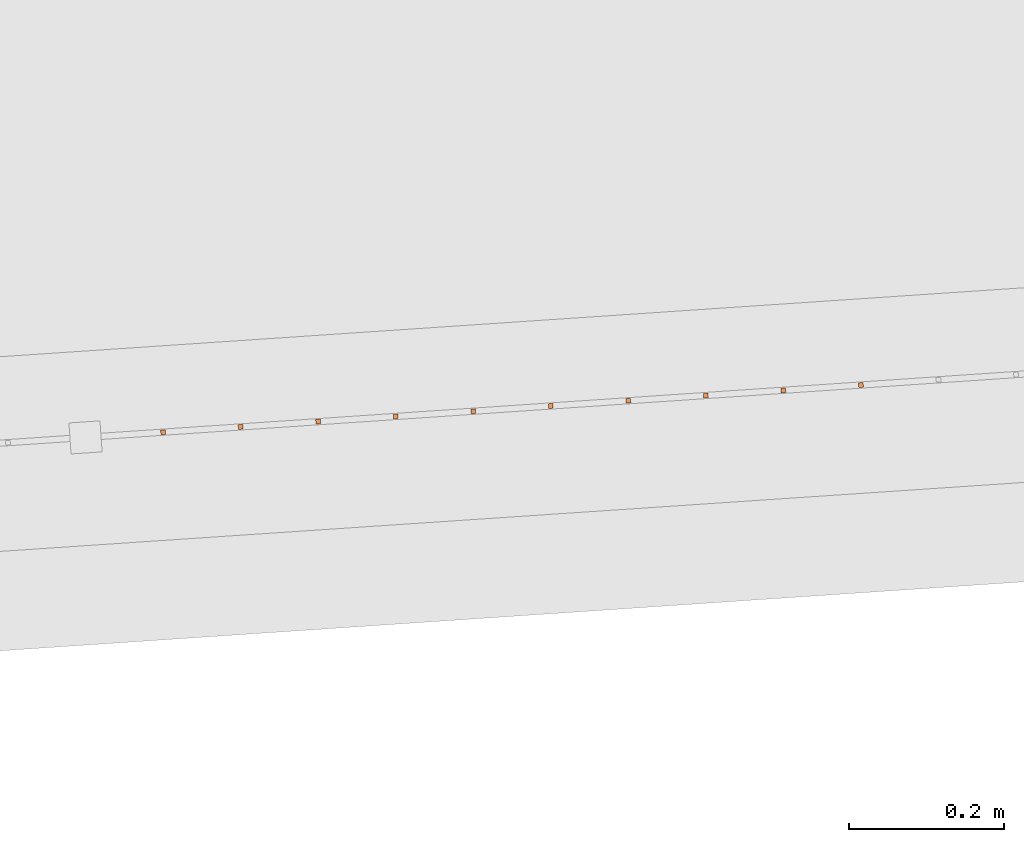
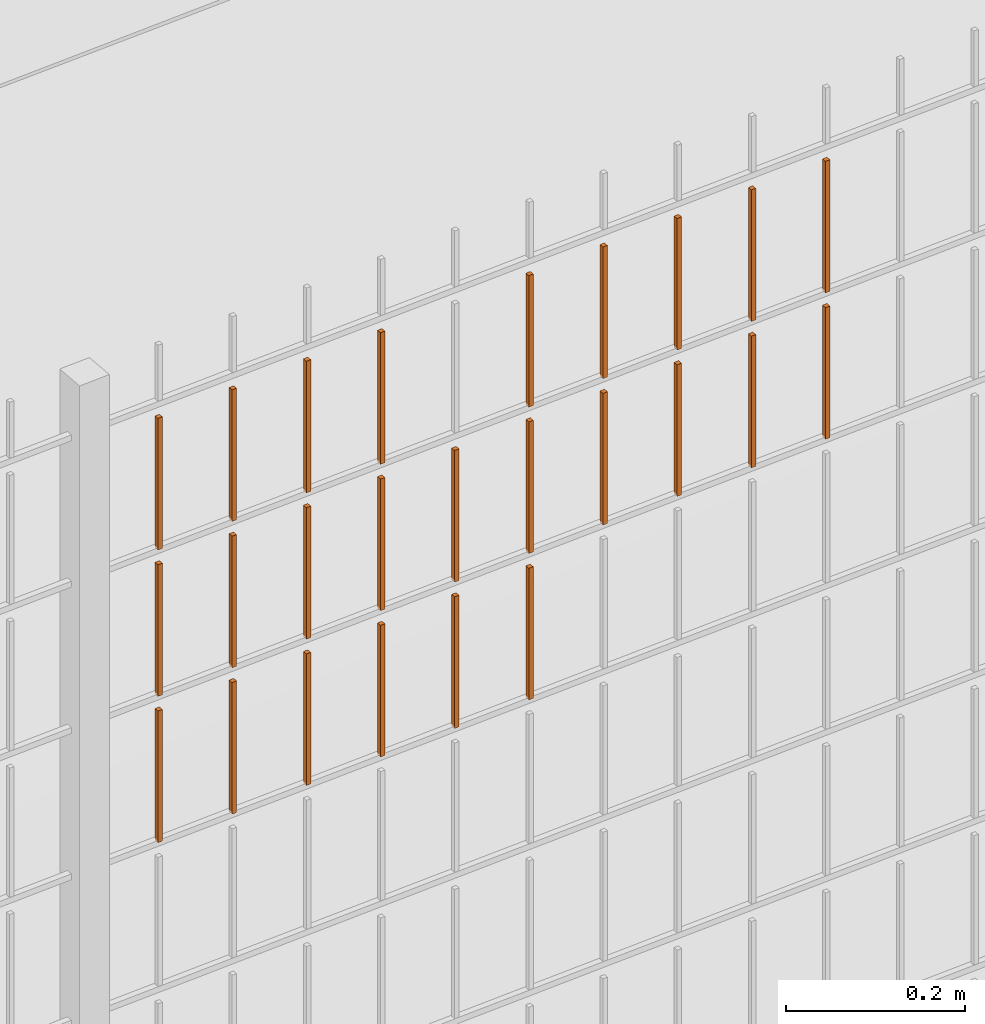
# One storey, part 198 of 1809: 25 proxies, 1 element without a shape of its own.
"""IFC2X3 building model written with IfcOpenShell, lengths in millimetres."""

from ifc_helpers import new_model, entity, si_unit, converted_unit, derived_unit, money_unit, direction, frame, origin_with_axes, place, context, subcontext, project, spatial, faceted_brep, source, transform, mapped, material, type_object, element, aggregate, save


model = new_model("IFC2X3")

# Units and contexts
model_context = context("Model", 3, precision=0.01, world=origin_with_axes(), true_north=direction((0.0, 1.0)))
body_context = subcontext(model_context, "Body", "Model", "MODEL_VIEW")
ifc_project = project(units=[si_unit("LENGTHUNIT", "METRE", prefix="MILLI"), si_unit("AREAUNIT", "SQUARE_METRE"), si_unit("VOLUMEUNIT", "CUBIC_METRE"), converted_unit("PLANEANGLEUNIT", "DEGREE", entity("IfcPlaneAngleMeasure", 0.0174532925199), si_unit("PLANEANGLEUNIT", "RADIAN"), dimensions=[0, 0, 0, 0, 0, 0, 0]), si_unit("SOLIDANGLEUNIT", "STERADIAN"), money_unit("EUR"), converted_unit("TIMEUNIT", "Year", entity("IfcTimeMeasure", 31556926.0), si_unit("TIMEUNIT", "SECOND"), dimensions=[0, 0, 1, 0, 0, 0, 0]), si_unit("MASSUNIT", "GRAM", prefix="KILO"), si_unit("THERMODYNAMICTEMPERATUREUNIT", "DEGREE_CELSIUS"), si_unit("LUMINOUSINTENSITYUNIT", "LUMEN"), si_unit("ENERGYUNIT", "JOULE", prefix="MEGA"), derived_unit("THERMALCONDUCTANCEUNIT", [(si_unit("POWERUNIT", "WATT"), 1), (si_unit("LENGTHUNIT", "METRE"), -1), (si_unit("THERMODYNAMICTEMPERATUREUNIT", "KELVIN"), -1)]), derived_unit("SPECIFICHEATCAPACITYUNIT", [(si_unit("ENERGYUNIT", "JOULE"), 1), (si_unit("MASSUNIT", "GRAM", prefix="KILO"), -1), (si_unit("THERMODYNAMICTEMPERATUREUNIT", "KELVIN"), -1)]), derived_unit("MASSDENSITYUNIT", [(si_unit("MASSUNIT", "GRAM", prefix="KILO"), 1), (si_unit("VOLUMEUNIT", "CUBIC_METRE"), -1)])], contexts=[model_context])

# Site, building, storey
site_placement = place(None, origin_with_axes())
site = spatial("IfcSite", under=ifc_project, at=site_placement, Name="Politse- ja Piirivalveameti ning Päästeameti ühishoone", CompositionType="ELEMENT")
building_placement = place(site_placement, origin_with_axes())
building = spatial("IfcBuilding", under=site, at=building_placement, Name="Politse- ja Piirivalveameti ning Päästeameti ühishoone", CompositionType="ELEMENT")
storey_placement = place(building_placement, origin_with_axes())
storey = spatial("IfcBuildingStorey", under=building, at=storey_placement, Name="Esimene korrus", CompositionType="ELEMENT", Elevation=0.0)

# Proxies
building_element_proxy_type_1 = type_object("IfcBuildingElementProxyType", Name="Railing Type", PredefinedType="NOTDEFINED")
proxy_1_placement = place(storey_placement, frame((89252.001212, -29183.4766571, 203.661247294), z_axis=(0.0, 0.0, 1.0), x_axis=(1.0, 0.0, 0.0)))
proxy_1 = element("IfcBuildingElementProxy", 1, at=proxy_1_placement, inside=storey, type_object=building_element_proxy_type_1, Name="PIIRDEAED")
ifc_material = material(Name="ET-03_Raud")
building_element_proxy_type_2 = type_object("IfcBuildingElementProxyType", Name="IfcBuildingElementProxy", PredefinedType="NOTDEFINED")
shared_shape_1 = source(origin_with_axes(), body_context, "Body", "Brep", [
    faceted_brep([(3.0, 3.0, -0.000752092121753), (-3.0, 3.0, -0.000752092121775), (-3.0, 3.0, 179.99926046), (3.0, 3.0, 179.99926046), (3.0, -3.0, 0.000752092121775), (-3.0, -3.0, 0.000752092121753), (-3.0, -3.0, 180.000764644), (3.0, -3.0, 180.000764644)], [[[0, 1, 2, 3]], [[0, 4, 5, 1]], [[1, 5, 6, 2]], [[3, 2, 6, 7]], [[4, 0, 3, 7]], [[5, 4, 7, 6]]]),
])
proxy_2_placement = place(proxy_1_placement, frame((-66974.0774738, -21821.6209439, 1810.40590112), z_axis=(0.0, 0.0, 1.0), x_axis=(1.0, 0.0, 0.0)))
proxy_2 = element("IfcBuildingElementProxy", 2, at=proxy_2_placement, type_object=building_element_proxy_type_2, material=ifc_material, Name="BALUSTER - 001", context=body_context, shape_type="MappedRepresentation", body=[
    mapped(shared_shape_1, transform((0.0, 0.0, 0.0), x_axis=(-0.0673926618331, 0.997726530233, 0.0), y_axis=(-0.997726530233, -0.0673926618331, 0.0), z_axis=(0.0, 0.0, 1.0))),
])
shared_shape_2 = source(origin_with_axes(), body_context, "Body", "Brep", [
    faceted_brep([(3.0, 3.0, -0.000752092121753), (-3.0, 3.0, -0.000752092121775), (-3.0, 3.0, 179.99926046), (3.0, 3.0, 179.99926046), (3.0, -3.0, 0.000752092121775), (-3.0, -3.0, 0.000752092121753), (-3.0, -3.0, 180.000764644), (3.0, -3.0, 180.000764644)], [[[0, 1, 2, 3]], [[0, 4, 5, 1]], [[1, 5, 6, 2]], [[3, 2, 6, 7]], [[4, 0, 3, 7]], [[5, 4, 7, 6]]]),
])
proxy_3_placement = place(proxy_1_placement, frame((-66974.0774738, -21821.6209439, 1410.40590112), z_axis=(0.0, 0.0, 1.0), x_axis=(1.0, 0.0, 0.0)))
proxy_3 = element("IfcBuildingElementProxy", 3, at=proxy_3_placement, type_object=building_element_proxy_type_2, material=ifc_material, Name="BALUSTER - 001", context=body_context, shape_type="MappedRepresentation", body=[
    mapped(shared_shape_2, transform((0.0, 0.0, 0.0), x_axis=(-0.0673926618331, 0.997726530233, 0.0), y_axis=(-0.997726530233, -0.0673926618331, 0.0), z_axis=(0.0, 0.0, 1.0))),
])
proxy_4_placement = place(proxy_1_placement, frame((-66974.0774738, -21821.6209439, 1610.40590112), z_axis=(0.0, 0.0, 1.0), x_axis=(1.0, 0.0, 0.0)))
proxy_4 = element("IfcBuildingElementProxy", 4, at=proxy_4_placement, type_object=building_element_proxy_type_2, material=ifc_material, Name="BALUSTER - 001", context=body_context, shape_type="MappedRepresentation", body=[
    mapped(shared_shape_2, transform((0.0, 0.0, 0.0), x_axis=(-0.0673926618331, 0.997726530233, 0.0), y_axis=(-0.997726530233, -0.0673926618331, 0.0), z_axis=(0.0, 0.0, 1.0))),
])
shared_shape_3 = source(origin_with_axes(), body_context, "Body", "Brep", [
    faceted_brep([(3.0, 3.0, -0.000752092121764), (-3.0, 3.0, -0.000752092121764), (-3.0, 3.0, 179.99926046), (3.0, 3.0, 179.99926046), (3.0, -3.0, 0.000752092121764), (-3.0, -3.0, 0.000752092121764), (-3.0, -3.0, 180.000764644), (3.0, -3.0, 180.000764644)], [[[0, 1, 2, 3]], [[0, 4, 5, 1]], [[1, 5, 6, 2]], [[3, 2, 6, 7]], [[4, 0, 3, 7]], [[5, 4, 7, 6]]]),
])
proxy_5_placement = place(proxy_1_placement, frame((-66375.4415557, -21781.1853468, 1810.55631954), z_axis=(0.0, 0.0, 1.0), x_axis=(1.0, 0.0, 0.0)))
proxy_5 = element("IfcBuildingElementProxy", 5, at=proxy_5_placement, type_object=building_element_proxy_type_2, material=ifc_material, Name="BALUSTER - 001", context=body_context, shape_type="MappedRepresentation", body=[
    mapped(shared_shape_3, transform((0.0, 0.0, 0.0), x_axis=(-0.0673926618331, 0.997726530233, 0.0), y_axis=(-0.997726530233, -0.0673926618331, 0.0), z_axis=(0.0, 0.0, 1.0))),
])
shared_shape_4 = source(origin_with_axes(), body_context, "Body", "Brep", [
    faceted_brep([(3.0, 3.0, -0.000752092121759), (-3.0, 3.0, -0.000752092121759), (-3.0, 3.0, 179.99926046), (3.0, 3.0, 179.99926046), (3.0, -3.0, 0.000752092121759), (-3.0, -3.0, 0.000752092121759), (-3.0, -3.0, 180.000764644), (3.0, -3.0, 180.000764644)], [[[0, 1, 2, 3]], [[0, 4, 5, 1]], [[1, 5, 6, 2]], [[3, 2, 6, 7]], [[4, 0, 3, 7]], [[5, 4, 7, 6]]]),
])
proxy_6_placement = place(proxy_1_placement, frame((-66574.9868617, -21794.6638792, 1810.50618007), z_axis=(0.0, 0.0, 1.0), x_axis=(1.0, 0.0, 0.0)))
proxy_6 = element("IfcBuildingElementProxy", 6, at=proxy_6_placement, type_object=building_element_proxy_type_2, material=ifc_material, Name="BALUSTER - 001", context=body_context, shape_type="MappedRepresentation", body=[
    mapped(shared_shape_4, transform((0.0, 0.0, 0.0), x_axis=(-0.0673926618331, 0.997726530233, 0.0), y_axis=(-0.997726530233, -0.0673926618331, 0.0), z_axis=(0.0, 0.0, 1.0))),
])
shared_shape_5 = source(origin_with_axes(), body_context, "Body", "Brep", [
    faceted_brep([(3.0, 3.0, -0.000752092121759), (-3.0, 3.0, -0.000752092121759), (-3.0, 3.0, 179.99926046), (3.0, 3.0, 179.99926046), (3.0, -3.0, 0.000752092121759), (-3.0, -3.0, 0.000752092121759), (-3.0, -3.0, 180.000764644), (3.0, -3.0, 180.000764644)], [[[0, 1, 2, 3]], [[0, 4, 5, 1]], [[1, 5, 6, 2]], [[3, 2, 6, 7]], [[4, 0, 3, 7]], [[5, 4, 7, 6]]]),
])
proxy_7_placement = place(proxy_1_placement, frame((-66175.8962496, -21767.7068144, 1810.60645902), z_axis=(0.0, 0.0, 1.0), x_axis=(1.0, 0.0, 0.0)))
proxy_7 = element("IfcBuildingElementProxy", 7, at=proxy_7_placement, type_object=building_element_proxy_type_2, material=ifc_material, Name="BALUSTER - 001", context=body_context, shape_type="MappedRepresentation", body=[
    mapped(shared_shape_5, transform((0.0, 0.0, 0.0), x_axis=(-0.0673926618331, 0.997726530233, 0.0), y_axis=(-0.997726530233, -0.0673926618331, 0.0), z_axis=(0.0, 0.0, 1.0))),
])
proxy_8_placement = place(proxy_1_placement, frame((-66774.5321678, -21808.1424115, 1810.45604059), z_axis=(0.0, 0.0, 1.0), x_axis=(1.0, 0.0, 0.0)))
proxy_8 = element("IfcBuildingElementProxy", 8, at=proxy_8_placement, type_object=building_element_proxy_type_2, material=ifc_material, Name="BALUSTER - 001", context=body_context, shape_type="MappedRepresentation", body=[
    mapped(shared_shape_5, transform((0.0, 0.0, 0.0), x_axis=(-0.0673926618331, 0.997726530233, 0.0), y_axis=(-0.997726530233, -0.0673926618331, 0.0), z_axis=(0.0, 0.0, 1.0))),
])
shared_shape_6 = source(origin_with_axes(), body_context, "Body", "Brep", [
    faceted_brep([(3.0, 3.0, -0.000752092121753), (-3.0, 3.0, -0.000752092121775), (-3.0, 3.0, 179.99926046), (3.0, 3.0, 179.99926046), (3.0, -3.0, 0.000752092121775), (-3.0, -3.0, 0.000752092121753), (-3.0, -3.0, 180.000764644), (3.0, -3.0, 180.000764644)], [[[0, 1, 2, 3]], [[0, 4, 5, 1]], [[1, 5, 6, 2]], [[3, 2, 6, 7]], [[4, 0, 3, 7]], [[5, 4, 7, 6]]]),
])
proxy_9_placement = place(proxy_1_placement, frame((-66275.6689027, -21774.4460806, 1810.58138928), z_axis=(0.0, 0.0, 1.0), x_axis=(1.0, 0.0, 0.0)))
proxy_9 = element("IfcBuildingElementProxy", 9, at=proxy_9_placement, type_object=building_element_proxy_type_2, material=ifc_material, Name="BALUSTER - 001", context=body_context, shape_type="MappedRepresentation", body=[
    mapped(shared_shape_6, transform((0.0, 0.0, 0.0), x_axis=(-0.0673926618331, 0.997726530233, 0.0), y_axis=(-0.997726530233, -0.0673926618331, 0.0), z_axis=(0.0, 0.0, 1.0))),
])
proxy_10_placement = place(proxy_1_placement, frame((-66874.3048208, -21814.8816777, 1810.43097085), z_axis=(0.0, 0.0, 1.0), x_axis=(1.0, 0.0, 0.0)))
proxy_10 = element("IfcBuildingElementProxy", 10, at=proxy_10_placement, type_object=building_element_proxy_type_2, material=ifc_material, Name="BALUSTER - 001", context=body_context, shape_type="MappedRepresentation", body=[
    mapped(shared_shape_6, transform((0.0, 0.0, 0.0), x_axis=(-0.0673926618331, 0.997726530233, 0.0), y_axis=(-0.997726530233, -0.0673926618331, 0.0), z_axis=(0.0, 0.0, 1.0))),
])
shared_shape_7 = source(origin_with_axes(), body_context, "Body", "Brep", [
    faceted_brep([(3.0, 3.0, -0.000752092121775), (-3.0, 3.0, -0.000752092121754), (-3.0, 3.0, 179.99926046), (3.0, 3.0, 179.99926046), (3.0, -3.0, 0.000752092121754), (-3.0, -3.0, 0.000752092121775), (-3.0, -3.0, 180.000764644), (3.0, -3.0, 180.000764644)], [[[0, 1, 2, 3]], [[0, 4, 5, 1]], [[1, 5, 6, 2]], [[3, 2, 6, 7]], [[4, 0, 3, 7]], [[5, 4, 7, 6]]]),
])
proxy_11_placement = place(proxy_1_placement, frame((-66475.2142087, -21787.924613, 1810.5312498), z_axis=(0.0, 0.0, 1.0), x_axis=(1.0, 0.0, 0.0)))
proxy_11 = element("IfcBuildingElementProxy", 11, at=proxy_11_placement, type_object=building_element_proxy_type_2, material=ifc_material, Name="BALUSTER - 001", context=body_context, shape_type="MappedRepresentation", body=[
    mapped(shared_shape_7, transform((0.0, 0.0, 0.0), x_axis=(-0.0673926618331, 0.997726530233, 0.0), y_axis=(-0.997726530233, -0.0673926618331, 0.0), z_axis=(0.0, 0.0, 1.0))),
])
proxy_12_placement = place(proxy_1_placement, frame((-67073.8501268, -21828.3602101, 1810.38083138), z_axis=(0.0, 0.0, 1.0), x_axis=(1.0, 0.0, 0.0)))
proxy_12 = element("IfcBuildingElementProxy", 12, at=proxy_12_placement, type_object=building_element_proxy_type_2, material=ifc_material, Name="BALUSTER - 001", context=body_context, shape_type="MappedRepresentation", body=[
    mapped(shared_shape_7, transform((0.0, 0.0, 0.0), x_axis=(-0.0673926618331, 0.997726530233, 0.0), y_axis=(-0.997726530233, -0.0673926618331, 0.0), z_axis=(0.0, 0.0, 1.0))),
])
shared_shape_8 = source(origin_with_axes(), body_context, "Body", "Brep", [
    faceted_brep([(3.0, 3.0, -0.000752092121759), (-3.0, 3.0, -0.000752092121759), (-3.0, 3.0, 179.99926046), (3.0, 3.0, 179.99926046), (3.0, -3.0, 0.000752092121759), (-3.0, -3.0, 0.000752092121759), (-3.0, -3.0, 180.000764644), (3.0, -3.0, 180.000764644)], [[[0, 1, 2, 3]], [[0, 4, 5, 1]], [[1, 5, 6, 2]], [[3, 2, 6, 7]], [[4, 0, 3, 7]], [[5, 4, 7, 6]]]),
])
proxy_13_placement = place(proxy_1_placement, frame((-66574.9868617, -21794.6638792, 1410.50618007), z_axis=(0.0, 0.0, 1.0), x_axis=(1.0, 0.0, 0.0)))
proxy_13 = element("IfcBuildingElementProxy", 13, at=proxy_13_placement, type_object=building_element_proxy_type_2, material=ifc_material, Name="BALUSTER - 001", context=body_context, shape_type="MappedRepresentation", body=[
    mapped(shared_shape_8, transform((0.0, 0.0, 0.0), x_axis=(-0.0673926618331, 0.997726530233, 0.0), y_axis=(-0.997726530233, -0.0673926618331, 0.0), z_axis=(0.0, 0.0, 1.0))),
])
proxy_14_placement = place(proxy_1_placement, frame((-66574.9868617, -21794.6638792, 1610.50618007), z_axis=(0.0, 0.0, 1.0), x_axis=(1.0, 0.0, 0.0)))
proxy_14 = element("IfcBuildingElementProxy", 14, at=proxy_14_placement, type_object=building_element_proxy_type_2, material=ifc_material, Name="BALUSTER - 001", context=body_context, shape_type="MappedRepresentation", body=[
    mapped(shared_shape_8, transform((0.0, 0.0, 0.0), x_axis=(-0.0673926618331, 0.997726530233, 0.0), y_axis=(-0.997726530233, -0.0673926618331, 0.0), z_axis=(0.0, 0.0, 1.0))),
])
shared_shape_9 = source(origin_with_axes(), body_context, "Body", "Brep", [
    faceted_brep([(3.0, 3.0, -0.000752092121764), (-3.0, 3.0, -0.000752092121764), (-3.0, 3.0, 179.99926046), (3.0, 3.0, 179.99926046), (3.0, -3.0, 0.000752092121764), (-3.0, -3.0, 0.000752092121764), (-3.0, -3.0, 180.000764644), (3.0, -3.0, 180.000764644)], [[[0, 1, 2, 3]], [[0, 4, 5, 1]], [[1, 5, 6, 2]], [[3, 2, 6, 7]], [[4, 0, 3, 7]], [[5, 4, 7, 6]]]),
])
proxy_15_placement = place(proxy_1_placement, frame((-66375.4415557, -21781.1853468, 1610.55631954), z_axis=(0.0, 0.0, 1.0), x_axis=(1.0, 0.0, 0.0)))
proxy_15 = element("IfcBuildingElementProxy", 15, at=proxy_15_placement, type_object=building_element_proxy_type_2, material=ifc_material, Name="BALUSTER - 001", context=body_context, shape_type="MappedRepresentation", body=[
    mapped(shared_shape_9, transform((0.0, 0.0, 0.0), x_axis=(-0.0673926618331, 0.997726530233, 0.0), y_axis=(-0.997726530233, -0.0673926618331, 0.0), z_axis=(0.0, 0.0, 1.0))),
])
shared_shape_10 = source(origin_with_axes(), body_context, "Body", "Brep", [
    faceted_brep([(3.0, 3.0, -0.000752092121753), (-3.0, 3.0, -0.000752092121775), (-3.0, 3.0, 179.99926046), (3.0, 3.0, 179.99926046), (3.0, -3.0, 0.000752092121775), (-3.0, -3.0, 0.000752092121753), (-3.0, -3.0, 180.000764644), (3.0, -3.0, 180.000764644)], [[[0, 1, 2, 3]], [[0, 4, 5, 1]], [[1, 5, 6, 2]], [[3, 2, 6, 7]], [[4, 0, 3, 7]], [[5, 4, 7, 6]]]),
])
proxy_16_placement = place(proxy_1_placement, frame((-66674.7595148, -21801.4031454, 1410.48111033), z_axis=(0.0, 0.0, 1.0), x_axis=(1.0, 0.0, 0.0)))
proxy_16 = element("IfcBuildingElementProxy", 16, at=proxy_16_placement, type_object=building_element_proxy_type_2, material=ifc_material, Name="BALUSTER - 001", context=body_context, shape_type="MappedRepresentation", body=[
    mapped(shared_shape_10, transform((0.0, 0.0, 0.0), x_axis=(-0.0673926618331, 0.997726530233, 0.0), y_axis=(-0.997726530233, -0.0673926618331, 0.0), z_axis=(0.0, 0.0, 1.0))),
])
proxy_17_placement = place(proxy_1_placement, frame((-66275.6689027, -21774.4460806, 1610.58138928), z_axis=(0.0, 0.0, 1.0), x_axis=(1.0, 0.0, 0.0)))
proxy_17 = element("IfcBuildingElementProxy", 17, at=proxy_17_placement, type_object=building_element_proxy_type_2, material=ifc_material, Name="BALUSTER - 001", context=body_context, shape_type="MappedRepresentation", body=[
    mapped(shared_shape_10, transform((0.0, 0.0, 0.0), x_axis=(-0.0673926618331, 0.997726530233, 0.0), y_axis=(-0.997726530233, -0.0673926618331, 0.0), z_axis=(0.0, 0.0, 1.0))),
])
proxy_18_placement = place(proxy_1_placement, frame((-66674.7595148, -21801.4031454, 1610.48111033), z_axis=(0.0, 0.0, 1.0), x_axis=(1.0, 0.0, 0.0)))
proxy_18 = element("IfcBuildingElementProxy", 18, at=proxy_18_placement, type_object=building_element_proxy_type_2, material=ifc_material, Name="BALUSTER - 001", context=body_context, shape_type="MappedRepresentation", body=[
    mapped(shared_shape_10, transform((0.0, 0.0, 0.0), x_axis=(-0.0673926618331, 0.997726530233, 0.0), y_axis=(-0.997726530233, -0.0673926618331, 0.0), z_axis=(0.0, 0.0, 1.0))),
])
shared_shape_11 = source(origin_with_axes(), body_context, "Body", "Brep", [
    faceted_brep([(3.0, 3.0, -0.000752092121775), (-3.0, 3.0, -0.000752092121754), (-3.0, 3.0, 179.99926046), (3.0, 3.0, 179.99926046), (3.0, -3.0, 0.000752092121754), (-3.0, -3.0, 0.000752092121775), (-3.0, -3.0, 180.000764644), (3.0, -3.0, 180.000764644)], [[[0, 1, 2, 3]], [[0, 4, 5, 1]], [[1, 5, 6, 2]], [[3, 2, 6, 7]], [[4, 0, 3, 7]], [[5, 4, 7, 6]]]),
])
proxy_19_placement = place(proxy_1_placement, frame((-67073.8501268, -21828.3602101, 1410.38083138), z_axis=(0.0, 0.0, 1.0), x_axis=(1.0, 0.0, 0.0)))
proxy_19 = element("IfcBuildingElementProxy", 19, at=proxy_19_placement, type_object=building_element_proxy_type_2, material=ifc_material, Name="BALUSTER - 001", context=body_context, shape_type="MappedRepresentation", body=[
    mapped(shared_shape_11, transform((0.0, 0.0, 0.0), x_axis=(-0.0673926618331, 0.997726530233, 0.0), y_axis=(-0.997726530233, -0.0673926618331, 0.0), z_axis=(0.0, 0.0, 1.0))),
])
proxy_20_placement = place(proxy_1_placement, frame((-67073.8501268, -21828.3602101, 1610.38083138), z_axis=(0.0, 0.0, 1.0), x_axis=(1.0, 0.0, 0.0)))
proxy_20 = element("IfcBuildingElementProxy", 20, at=proxy_20_placement, type_object=building_element_proxy_type_2, material=ifc_material, Name="BALUSTER - 001", context=body_context, shape_type="MappedRepresentation", body=[
    mapped(shared_shape_11, transform((0.0, 0.0, 0.0), x_axis=(-0.0673926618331, 0.997726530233, 0.0), y_axis=(-0.997726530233, -0.0673926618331, 0.0), z_axis=(0.0, 0.0, 1.0))),
])
shared_shape_12 = source(origin_with_axes(), body_context, "Body", "Brep", [
    faceted_brep([(3.0, 3.0, -0.000752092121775), (-3.0, 3.0, -0.000752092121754), (-3.0, 3.0, 179.99926046), (3.0, 3.0, 179.99926046), (3.0, -3.0, 0.000752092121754), (-3.0, -3.0, 0.000752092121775), (-3.0, -3.0, 180.000764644), (3.0, -3.0, 180.000764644)], [[[0, 1, 2, 3]], [[0, 4, 5, 1]], [[1, 5, 6, 2]], [[3, 2, 6, 7]], [[4, 0, 3, 7]], [[5, 4, 7, 6]]]),
])
proxy_21_placement = place(proxy_1_placement, frame((-66475.2142087, -21787.924613, 1610.5312498), z_axis=(0.0, 0.0, 1.0), x_axis=(1.0, 0.0, 0.0)))
proxy_21 = element("IfcBuildingElementProxy", 21, at=proxy_21_placement, type_object=building_element_proxy_type_2, material=ifc_material, Name="BALUSTER - 001", context=body_context, shape_type="MappedRepresentation", body=[
    mapped(shared_shape_12, transform((0.0, 0.0, 0.0), x_axis=(-0.0673926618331, 0.997726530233, 0.0), y_axis=(-0.997726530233, -0.0673926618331, 0.0), z_axis=(0.0, 0.0, 1.0))),
])
shared_shape_13 = source(origin_with_axes(), body_context, "Body", "Brep", [
    faceted_brep([(3.0, 3.0, -0.000752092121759), (-3.0, 3.0, -0.000752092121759), (-3.0, 3.0, 179.99926046), (3.0, 3.0, 179.99926046), (3.0, -3.0, 0.000752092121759), (-3.0, -3.0, 0.000752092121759), (-3.0, -3.0, 180.000764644), (3.0, -3.0, 180.000764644)], [[[0, 1, 2, 3]], [[0, 4, 5, 1]], [[1, 5, 6, 2]], [[3, 2, 6, 7]], [[4, 0, 3, 7]], [[5, 4, 7, 6]]]),
])
proxy_22_placement = place(proxy_1_placement, frame((-66774.5321678, -21808.1424115, 1410.45604059), z_axis=(0.0, 0.0, 1.0), x_axis=(1.0, 0.0, 0.0)))
proxy_22 = element("IfcBuildingElementProxy", 22, at=proxy_22_placement, type_object=building_element_proxy_type_2, material=ifc_material, Name="BALUSTER - 001", context=body_context, shape_type="MappedRepresentation", body=[
    mapped(shared_shape_13, transform((0.0, 0.0, 0.0), x_axis=(-0.0673926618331, 0.997726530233, 0.0), y_axis=(-0.997726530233, -0.0673926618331, 0.0), z_axis=(0.0, 0.0, 1.0))),
])
proxy_23_placement = place(proxy_1_placement, frame((-66175.8962496, -21767.7068144, 1610.60645902), z_axis=(0.0, 0.0, 1.0), x_axis=(1.0, 0.0, 0.0)))
proxy_23 = element("IfcBuildingElementProxy", 23, at=proxy_23_placement, type_object=building_element_proxy_type_2, material=ifc_material, Name="BALUSTER - 001", context=body_context, shape_type="MappedRepresentation", body=[
    mapped(shared_shape_13, transform((0.0, 0.0, 0.0), x_axis=(-0.0673926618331, 0.997726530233, 0.0), y_axis=(-0.997726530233, -0.0673926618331, 0.0), z_axis=(0.0, 0.0, 1.0))),
])
proxy_24_placement = place(proxy_1_placement, frame((-66774.5321678, -21808.1424115, 1610.45604059), z_axis=(0.0, 0.0, 1.0), x_axis=(1.0, 0.0, 0.0)))
proxy_24 = element("IfcBuildingElementProxy", 24, at=proxy_24_placement, type_object=building_element_proxy_type_2, material=ifc_material, Name="BALUSTER - 001", context=body_context, shape_type="MappedRepresentation", body=[
    mapped(shared_shape_13, transform((0.0, 0.0, 0.0), x_axis=(-0.0673926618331, 0.997726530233, 0.0), y_axis=(-0.997726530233, -0.0673926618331, 0.0), z_axis=(0.0, 0.0, 1.0))),
])
shared_shape_14 = source(origin_with_axes(), body_context, "Body", "Brep", [
    faceted_brep([(3.0, 3.0, -0.000752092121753), (-3.0, 3.0, -0.000752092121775), (-3.0, 3.0, 179.99926046), (3.0, 3.0, 179.99926046), (3.0, -3.0, 0.000752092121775), (-3.0, -3.0, 0.000752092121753), (-3.0, -3.0, 180.000764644), (3.0, -3.0, 180.000764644)], [[[0, 1, 2, 3]], [[0, 4, 5, 1]], [[1, 5, 6, 2]], [[3, 2, 6, 7]], [[4, 0, 3, 7]], [[5, 4, 7, 6]]]),
])
proxy_25_placement = place(proxy_1_placement, frame((-66874.3048208, -21814.8816777, 1410.43097085), z_axis=(0.0, 0.0, 1.0), x_axis=(1.0, 0.0, 0.0)))
proxy_25 = element("IfcBuildingElementProxy", 25, at=proxy_25_placement, type_object=building_element_proxy_type_2, material=ifc_material, Name="BALUSTER - 001", context=body_context, shape_type="MappedRepresentation", body=[
    mapped(shared_shape_14, transform((0.0, 0.0, 0.0), x_axis=(-0.0673926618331, 0.997726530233, 0.0), y_axis=(-0.997726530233, -0.0673926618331, 0.0), z_axis=(0.0, 0.0, 1.0))),
])
proxy_26_placement = place(proxy_1_placement, frame((-66874.3048208, -21814.8816777, 1610.43097085), z_axis=(0.0, 0.0, 1.0), x_axis=(1.0, 0.0, 0.0)))
proxy_26 = element("IfcBuildingElementProxy", 26, at=proxy_26_placement, type_object=building_element_proxy_type_2, material=ifc_material, Name="BALUSTER - 001", context=body_context, shape_type="MappedRepresentation", body=[
    mapped(shared_shape_14, transform((0.0, 0.0, 0.0), x_axis=(-0.0673926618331, 0.997726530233, 0.0), y_axis=(-0.997726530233, -0.0673926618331, 0.0), z_axis=(0.0, 0.0, 1.0))),
])
aggregate(proxy_1, [proxy_13, proxy_16, proxy_22, proxy_25, proxy_3, proxy_19, proxy_23, proxy_17, proxy_15, proxy_21, proxy_14, proxy_18, proxy_24, proxy_26, proxy_4, proxy_20, proxy_7, proxy_9, proxy_5, proxy_11, proxy_6, proxy_8, proxy_10, proxy_2, proxy_12])

save(model, "model.ifc")
